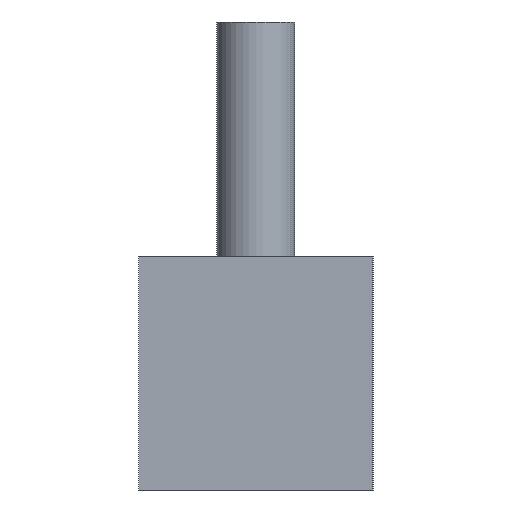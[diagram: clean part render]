
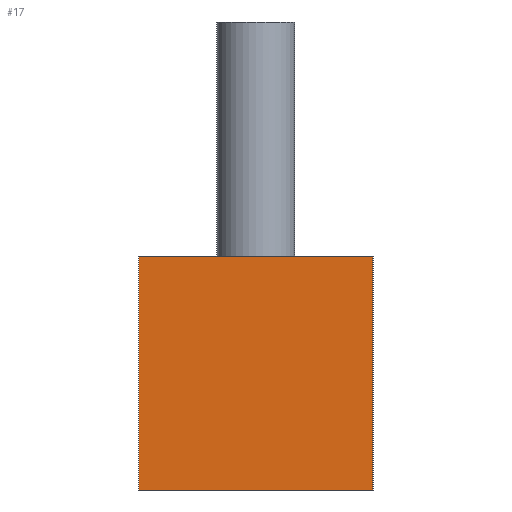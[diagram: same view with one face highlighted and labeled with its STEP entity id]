
A CAD part, left-side view. The second image highlights one B-rep face of the part: STEP entity #17.
In plain terms, the highlighted planar face has unit normal (-1, 0, 0).
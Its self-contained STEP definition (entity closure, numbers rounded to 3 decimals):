
#17 = ADVANCED_FACE('',(#18),#32,.F.);
#18 = FACE_BOUND('',#19,.F.);
#19 = EDGE_LOOP('',(#20,#55,#83,#111));
#20 = ORIENTED_EDGE('',*,*,#21,.F.);
#21 = EDGE_CURVE('',#22,#24,#26,.T.);
#22 = VERTEX_POINT('',#23);
#23 = CARTESIAN_POINT('',(-132.,204.,70.));
#24 = VERTEX_POINT('',#25);
#25 = CARTESIAN_POINT('',(-132.,204.,82.));
#26 = SURFACE_CURVE('',#27,(#31,#43),.PCURVE_S1.);
#27 = LINE('',#28,#29);
#28 = CARTESIAN_POINT('',(-132.,204.,70.));
#29 = VECTOR('',#30,1.);
#30 = DIRECTION('',(0.,0.,1.));
#31 = PCURVE('',#32,#37);
#32 = PLANE('',#33);
#33 = AXIS2_PLACEMENT_3D('',#34,#35,#36);
#34 = CARTESIAN_POINT('',(-132.,204.,70.));
#35 = DIRECTION('',(1.,0.,0.));
#36 = DIRECTION('',(0.,0.,1.));
#37 = DEFINITIONAL_REPRESENTATION('',(#38),#42);
#38 = LINE('',#39,#40);
#39 = CARTESIAN_POINT('',(0.,0.));
#40 = VECTOR('',#41,1.);
#41 = DIRECTION('',(1.,0.));
#42 = ( GEOMETRIC_REPRESENTATION_CONTEXT(2) 
PARAMETRIC_REPRESENTATION_CONTEXT() REPRESENTATION_CONTEXT('2D SPACE',''
  ) );
#43 = PCURVE('',#44,#49);
#44 = PLANE('',#45);
#45 = AXIS2_PLACEMENT_3D('',#46,#47,#48);
#46 = CARTESIAN_POINT('',(-132.,204.,70.));
#47 = DIRECTION('',(0.,1.,0.));
#48 = DIRECTION('',(0.,0.,1.));
#49 = DEFINITIONAL_REPRESENTATION('',(#50),#54);
#50 = LINE('',#51,#52);
#51 = CARTESIAN_POINT('',(0.,0.));
#52 = VECTOR('',#53,1.);
#53 = DIRECTION('',(1.,0.));
#54 = ( GEOMETRIC_REPRESENTATION_CONTEXT(2) 
PARAMETRIC_REPRESENTATION_CONTEXT() REPRESENTATION_CONTEXT('2D SPACE',''
  ) );
#55 = ORIENTED_EDGE('',*,*,#56,.T.);
#56 = EDGE_CURVE('',#22,#57,#59,.T.);
#57 = VERTEX_POINT('',#58);
#58 = CARTESIAN_POINT('',(-132.,216.,70.));
#59 = SURFACE_CURVE('',#60,(#64,#71),.PCURVE_S1.);
#60 = LINE('',#61,#62);
#61 = CARTESIAN_POINT('',(-132.,204.,70.));
#62 = VECTOR('',#63,1.);
#63 = DIRECTION('',(0.,1.,0.));
#64 = PCURVE('',#32,#65);
#65 = DEFINITIONAL_REPRESENTATION('',(#66),#70);
#66 = LINE('',#67,#68);
#67 = CARTESIAN_POINT('',(0.,0.));
#68 = VECTOR('',#69,1.);
#69 = DIRECTION('',(0.,-1.));
#70 = ( GEOMETRIC_REPRESENTATION_CONTEXT(2) 
PARAMETRIC_REPRESENTATION_CONTEXT() REPRESENTATION_CONTEXT('2D SPACE',''
  ) );
#71 = PCURVE('',#72,#77);
#72 = PLANE('',#73);
#73 = AXIS2_PLACEMENT_3D('',#74,#75,#76);
#74 = CARTESIAN_POINT('',(-132.,204.,70.));
#75 = DIRECTION('',(0.,0.,1.));
#76 = DIRECTION('',(1.,0.,0.));
#77 = DEFINITIONAL_REPRESENTATION('',(#78),#82);
#78 = LINE('',#79,#80);
#79 = CARTESIAN_POINT('',(0.,0.));
#80 = VECTOR('',#81,1.);
#81 = DIRECTION('',(0.,1.));
#82 = ( GEOMETRIC_REPRESENTATION_CONTEXT(2) 
PARAMETRIC_REPRESENTATION_CONTEXT() REPRESENTATION_CONTEXT('2D SPACE',''
  ) );
#83 = ORIENTED_EDGE('',*,*,#84,.T.);
#84 = EDGE_CURVE('',#57,#85,#87,.T.);
#85 = VERTEX_POINT('',#86);
#86 = CARTESIAN_POINT('',(-132.,216.,82.));
#87 = SURFACE_CURVE('',#88,(#92,#99),.PCURVE_S1.);
#88 = LINE('',#89,#90);
#89 = CARTESIAN_POINT('',(-132.,216.,70.));
#90 = VECTOR('',#91,1.);
#91 = DIRECTION('',(0.,0.,1.));
#92 = PCURVE('',#32,#93);
#93 = DEFINITIONAL_REPRESENTATION('',(#94),#98);
#94 = LINE('',#95,#96);
#95 = CARTESIAN_POINT('',(0.,-12.));
#96 = VECTOR('',#97,1.);
#97 = DIRECTION('',(1.,0.));
#98 = ( GEOMETRIC_REPRESENTATION_CONTEXT(2) 
PARAMETRIC_REPRESENTATION_CONTEXT() REPRESENTATION_CONTEXT('2D SPACE',''
  ) );
#99 = PCURVE('',#100,#105);
#100 = PLANE('',#101);
#101 = AXIS2_PLACEMENT_3D('',#102,#103,#104);
#102 = CARTESIAN_POINT('',(-132.,216.,70.));
#103 = DIRECTION('',(0.,1.,0.));
#104 = DIRECTION('',(0.,0.,1.));
#105 = DEFINITIONAL_REPRESENTATION('',(#106),#110);
#106 = LINE('',#107,#108);
#107 = CARTESIAN_POINT('',(0.,0.));
#108 = VECTOR('',#109,1.);
#109 = DIRECTION('',(1.,0.));
#110 = ( GEOMETRIC_REPRESENTATION_CONTEXT(2) 
PARAMETRIC_REPRESENTATION_CONTEXT() REPRESENTATION_CONTEXT('2D SPACE',''
  ) );
#111 = ORIENTED_EDGE('',*,*,#112,.F.);
#112 = EDGE_CURVE('',#24,#85,#113,.T.);
#113 = SURFACE_CURVE('',#114,(#118,#125),.PCURVE_S1.);
#114 = LINE('',#115,#116);
#115 = CARTESIAN_POINT('',(-132.,204.,82.));
#116 = VECTOR('',#117,1.);
#117 = DIRECTION('',(0.,1.,0.));
#118 = PCURVE('',#32,#119);
#119 = DEFINITIONAL_REPRESENTATION('',(#120),#124);
#120 = LINE('',#121,#122);
#121 = CARTESIAN_POINT('',(12.,0.));
#122 = VECTOR('',#123,1.);
#123 = DIRECTION('',(0.,-1.));
#124 = ( GEOMETRIC_REPRESENTATION_CONTEXT(2) 
PARAMETRIC_REPRESENTATION_CONTEXT() REPRESENTATION_CONTEXT('2D SPACE',''
  ) );
#125 = PCURVE('',#126,#131);
#126 = PLANE('',#127);
#127 = AXIS2_PLACEMENT_3D('',#128,#129,#130);
#128 = CARTESIAN_POINT('',(-132.,204.,82.));
#129 = DIRECTION('',(0.,0.,1.));
#130 = DIRECTION('',(1.,0.,0.));
#131 = DEFINITIONAL_REPRESENTATION('',(#132),#136);
#132 = LINE('',#133,#134);
#133 = CARTESIAN_POINT('',(0.,0.));
#134 = VECTOR('',#135,1.);
#135 = DIRECTION('',(0.,1.));
#136 = ( GEOMETRIC_REPRESENTATION_CONTEXT(2) 
PARAMETRIC_REPRESENTATION_CONTEXT() REPRESENTATION_CONTEXT('2D SPACE',''
  ) );
